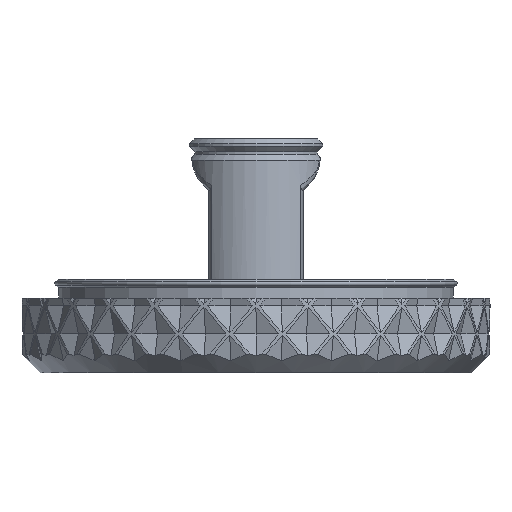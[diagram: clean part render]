
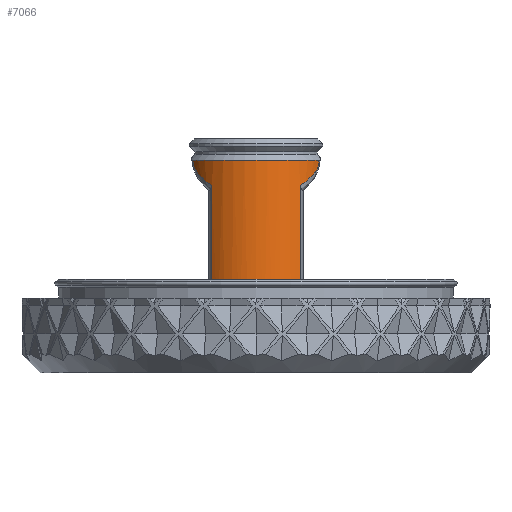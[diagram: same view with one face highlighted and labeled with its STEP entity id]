
A CAD part, front view. The second image highlights one B-rep face of the part: STEP entity #7066.
In plain terms, the highlighted cylindrical face has radius 7.3 mm (diameter 14.6 mm), a partial arc.
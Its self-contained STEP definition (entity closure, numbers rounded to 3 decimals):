
#504=CIRCLE('',#7474,7.3);
#660=CYLINDRICAL_SURFACE('',#7493,7.3);
#1054=FACE_OUTER_BOUND('',#1466,.T.);
#1466=EDGE_LOOP('',(#4953,#4954,#4955,#4956,#4957,#4958,#4959,#4960));
#1869=LINE('',#11718,#2302);
#1870=LINE('',#12144,#2303);
#2302=VECTOR('',#8417,10.);
#2303=VECTOR('',#8424,10.);
#2758=B_SPLINE_CURVE_WITH_KNOTS('',3,(#11587,#11588,#11589,#11590),
 .UNSPECIFIED.,.F.,.F.,(4,4),(0.,0.151),
 .UNSPECIFIED.);
#2767=B_SPLINE_CURVE_WITH_KNOTS('',3,(#11770,#11771,#11772,#11773,#11774,
#11775),.UNSPECIFIED.,.F.,.F.,(4,1,1,4),(-6.149,-5.806,
-5.436,-4.909),.UNSPECIFIED.);
#2789=B_SPLINE_CURVE_WITH_KNOTS('',3,(#12281,#12282,#12283,#12284,#12285),
 .UNSPECIFIED.,.F.,.F.,(4,1,4),(0.,0.154,
0.264),.UNSPECIFIED.);
#2790=B_SPLINE_CURVE_WITH_KNOTS('',3,(#12286,#12287,#12288,#12289),
 .UNSPECIFIED.,.F.,.F.,(4,4),(0.047,0.199),
 .UNSPECIFIED.);
#2791=B_SPLINE_CURVE_WITH_KNOTS('',3,(#12290,#12291,#12292,#12293,#12294),
 .UNSPECIFIED.,.F.,.F.,(4,1,4),(0.944,1.055,1.208),
 .UNSPECIFIED.);
#2885=VERTEX_POINT('',#11411);
#2886=VERTEX_POINT('',#11413);
#2891=VERTEX_POINT('',#11585);
#2896=VERTEX_POINT('',#11712);
#2897=VERTEX_POINT('',#11717);
#2899=VERTEX_POINT('',#11769);
#2907=VERTEX_POINT('',#12131);
#2916=VERTEX_POINT('',#12280);
#3651=EDGE_CURVE('',#2886,#2885,#504,.T.);
#3660=EDGE_CURVE('',#2891,#2885,#2758,.T.);
#3669=EDGE_CURVE('',#2897,#2896,#1869,.T.);
#3672=EDGE_CURVE('',#2899,#2896,#2767,.T.);
#3689=EDGE_CURVE('',#2907,#2899,#1870,.T.);
#3702=EDGE_CURVE('',#2916,#2907,#2789,.T.);
#3703=EDGE_CURVE('',#2886,#2916,#2790,.T.);
#3704=EDGE_CURVE('',#2897,#2891,#2791,.T.);
#4953=ORIENTED_EDGE('',*,*,#3672,.F.);
#4954=ORIENTED_EDGE('',*,*,#3689,.F.);
#4955=ORIENTED_EDGE('',*,*,#3702,.F.);
#4956=ORIENTED_EDGE('',*,*,#3703,.F.);
#4957=ORIENTED_EDGE('',*,*,#3651,.T.);
#4958=ORIENTED_EDGE('',*,*,#3660,.F.);
#4959=ORIENTED_EDGE('',*,*,#3704,.F.);
#4960=ORIENTED_EDGE('',*,*,#3669,.T.);
#7066=ADVANCED_FACE('',(#1054),#660,.T.);
#7474=AXIS2_PLACEMENT_3D('',#11414,#8401,#8402);
#7493=AXIS2_PLACEMENT_3D('',#12279,#8442,#8443);
#8401=DIRECTION('center_axis',(0.,0.,-1.));
#8402=DIRECTION('ref_axis',(0.,1.,0.));
#8417=DIRECTION('',(0.,0.,-1.));
#8424=DIRECTION('',(0.,0.,-1.));
#8442=DIRECTION('center_axis',(0.,0.,1.));
#8443=DIRECTION('ref_axis',(0.,-1.,0.));
#11411=CARTESIAN_POINT('',(-6.748,-2.784,14.751));
#11413=CARTESIAN_POINT('',(6.748,-2.784,14.751));
#11414=CARTESIAN_POINT('Origin',(0.,0.,
14.751));
#11585=CARTESIAN_POINT('',(-6.338,-3.622,13.503));
#11587=CARTESIAN_POINT('Ctrl Pts',(-6.338,-3.622,
13.503));
#11588=CARTESIAN_POINT('Ctrl Pts',(-6.571,-3.215,
13.805));
#11589=CARTESIAN_POINT('Ctrl Pts',(-6.696,-2.91,
14.26));
#11590=CARTESIAN_POINT('Ctrl Pts',(-6.748,-2.784,
14.751));
#11712=CARTESIAN_POINT('',(-4.729,-5.562,-3.391));
#11717=CARTESIAN_POINT('',(-4.729,-5.562,12.022));
#11718=CARTESIAN_POINT('',(-4.729,-5.562,14.));
#11769=CARTESIAN_POINT('',(4.729,-5.562,-3.391));
#11770=CARTESIAN_POINT('Ctrl Pts',(4.728,-5.562,-3.391));
#11771=CARTESIAN_POINT('Ctrl Pts',(4.006,-6.175,-3.391));
#11772=CARTESIAN_POINT('Ctrl Pts',(2.255,-7.154,-3.391));
#11773=CARTESIAN_POINT('Ctrl Pts',(-1.234,-7.526,
-3.391));
#11774=CARTESIAN_POINT('Ctrl Pts',(-3.616,-6.505,-3.391));
#11775=CARTESIAN_POINT('Ctrl Pts',(-4.728,-5.561,-3.391));
#12131=CARTESIAN_POINT('',(4.729,-5.562,12.022));
#12144=CARTESIAN_POINT('',(4.729,-5.562,-1.));
#12279=CARTESIAN_POINT('Origin',(0.,0.,
14.126));
#12280=CARTESIAN_POINT('',(6.338,-3.622,13.503));
#12281=CARTESIAN_POINT('Ctrl Pts',(6.338,-3.622,13.503));
#12282=CARTESIAN_POINT('Ctrl Pts',(6.102,-4.035,13.197));
#12283=CARTESIAN_POINT('Ctrl Pts',(5.625,-4.71,12.675));
#12284=CARTESIAN_POINT('Ctrl Pts',(5.015,-5.318,12.197));
#12285=CARTESIAN_POINT('Ctrl Pts',(4.729,-5.562,12.022));
#12286=CARTESIAN_POINT('Ctrl Pts',(6.748,-2.784,14.751));
#12287=CARTESIAN_POINT('Ctrl Pts',(6.696,-2.91,14.26));
#12288=CARTESIAN_POINT('Ctrl Pts',(6.571,-3.215,13.805));
#12289=CARTESIAN_POINT('Ctrl Pts',(6.338,-3.622,13.503));
#12290=CARTESIAN_POINT('Ctrl Pts',(-4.729,-5.562,12.022));
#12291=CARTESIAN_POINT('Ctrl Pts',(-5.015,-5.318,
12.196));
#12292=CARTESIAN_POINT('Ctrl Pts',(-5.625,-4.71,
12.675));
#12293=CARTESIAN_POINT('Ctrl Pts',(-6.102,-4.035,
13.197));
#12294=CARTESIAN_POINT('Ctrl Pts',(-6.338,-3.622,
13.503));
